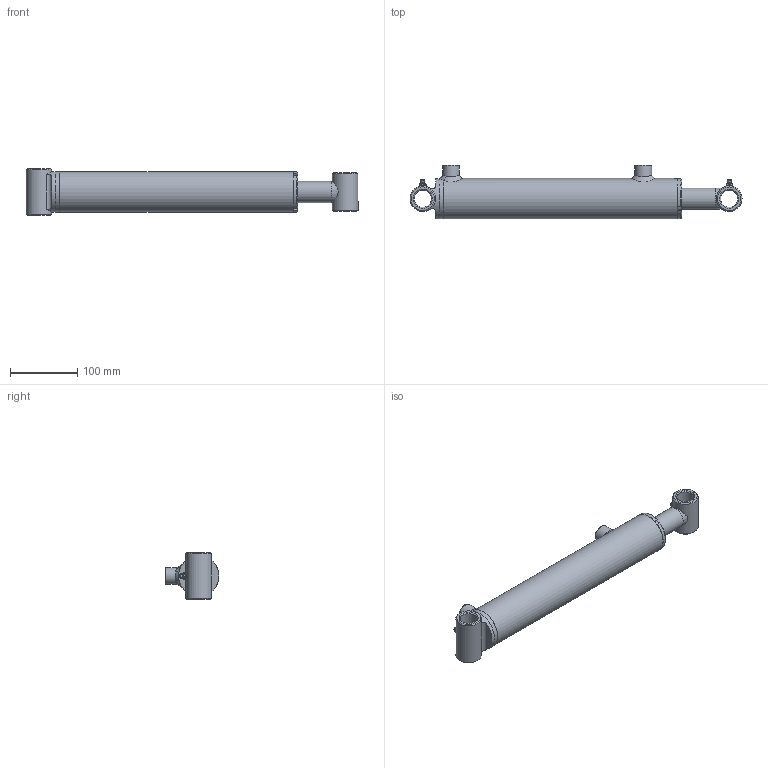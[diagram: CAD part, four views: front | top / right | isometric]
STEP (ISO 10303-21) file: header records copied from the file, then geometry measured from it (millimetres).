
FILE_DESCRIPTION(/* description */ (''),/* implementation_level */ '2;1');
FILE_NAME(/* name */ 'C:\01 - Philip\00 - Philip Rivard\01 - Contracts\Eagle Hydraulic Components\00 - 3D Cylinder\01 - Standard\HBU\HBU20XX\STEP\HBU2010.stp',/* time_stamp */ '2015-05-19T19:59:02-04:00',/* author */ ('Philip'),/* organization */ (''),/* preprocessor_version */ 'ST-DEVELOPER v16.1',/* originating_system */ 'Autodesk Inventor 2016',/* authorisation */ '');
FILE_SCHEMA (('AUTOMOTIVE_DESIGN { 1 0 10303 214 3 1 1 }'));
Length unit declared in the file: inch
Products named in the file (12): Tube_Welding_Welds; ECP-20-HBU; Tube; Straight_Port; Gland; Grease Fitting 1-8; Tube_Welding; Rod_Welding_Welds; Rod; Bushing; Rod_Welding; Cylinder_Assembly
Assembly tree (13 placements, depth 3):
  Cylinder_Assembly
    Tube_Welding
      Tube_Welding_Welds
      ECP-20-HBU
      Tube
      Straight_Port  x2
      Gland
      Grease Fitting 1-8
    Rod_Welding
      Rod_Welding_Welds
      Rod
      Bushing
      Grease Fitting 1-8
Bounding box: 495.3 x 80.33 x 69.8 mm (x, y, z)
Volume: 774896.2 mm3; surface area: 229655.1 mm2
Topology: 12 solids, 12 shells, 197 faces, 429 edges, 260 vertices
Faces by surface type: cone 65, plane 55, cylinder 50, torus 15, bspline 10, sphere 2
Full cylindrical faces by diameter (mm): 4 x2, 5 x1, 7.5 x2, 8 x2, 10 x2, 12.751 x2, 22 x1, 25 x4, 25.4 x2, 25.65 x2, 26 x1, 26.25 x1, 31.75 x2, 38.1 x2, 43 x1, 44.45 x1, 50.546 x1, 50.75 x1, 50.8 x1, 51 x1, 55 x4, 60.3 x1, 60.325 x1
Entity records: 6048 total; most frequent: CARTESIAN_POINT 2858, DIRECTION 631, ORIENTED_EDGE 486, AXIS2_PLACEMENT_3D 293, EDGE_LOOP 270, EDGE_CURVE 243, VERTEX_POINT 191, ADVANCED_FACE 157
